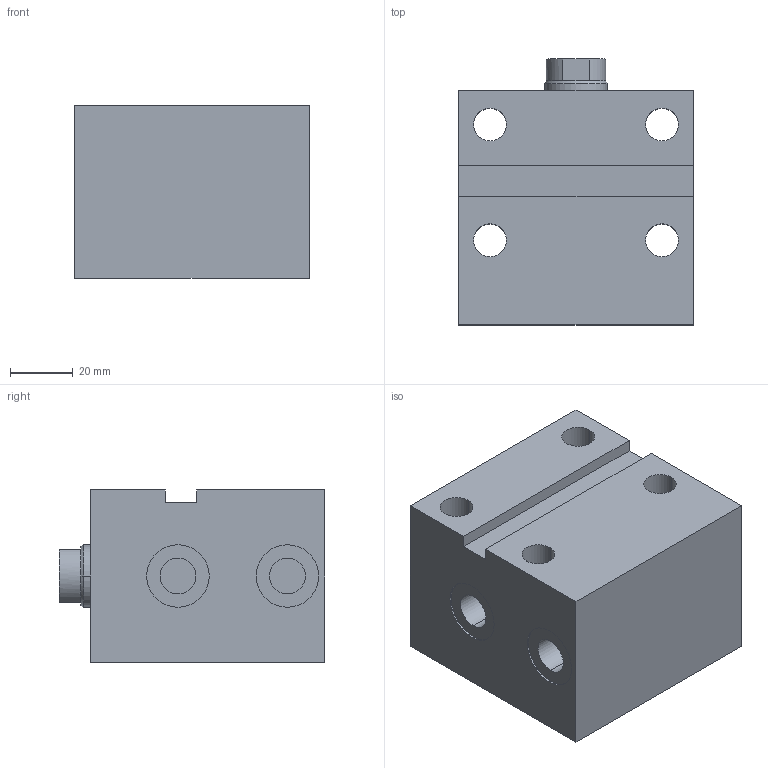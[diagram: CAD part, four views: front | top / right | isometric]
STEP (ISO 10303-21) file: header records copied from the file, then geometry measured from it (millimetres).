
FILE_DESCRIPTION (( 'STEP AP203' ), '1' );
FILE_NAME ('GERMA_Blockzylinder_601-032-025.STEP', '2015-06-20T18:10:38', ( '' ), ( '' ), 'SwSTEP 2.0', 'SolidWorks 2013', '' );
FILE_SCHEMA (( 'CONFIG_CONTROL_DESIGN' ));
Length unit declared in the file: millimetre
Products named in the file (3): GH-600-032_GH-601-032-025; Kolben 60x-032_Kolben DU.32-Hub25-IG; GERMA_Blockzylinder_601-032-025
Assembly tree (2 placements, depth 2):
  GERMA_Blockzylinder_601-032-025
    GH-600-032_GH-601-032-025
    Kolben 60x-032_Kolben DU.32-Hub25-IG
Bounding box: 75 x 85 x 55 mm (x, y, z)
Volume: 272709.5 mm3; surface area: 49879.5 mm2
Topology: 2 solids, 2 shells, 77 faces, 172 edges, 106 vertices
Faces by surface type: cylinder 37, plane 26, cone 14
Entity records: 2434 total; most frequent: DIRECTION 415, CARTESIAN_POINT 354, ORIENTED_EDGE 332, AXIS2_PLACEMENT_3D 167, EDGE_CURVE 166, VERTEX_POINT 106, EDGE_LOOP 98, CIRCLE 85
